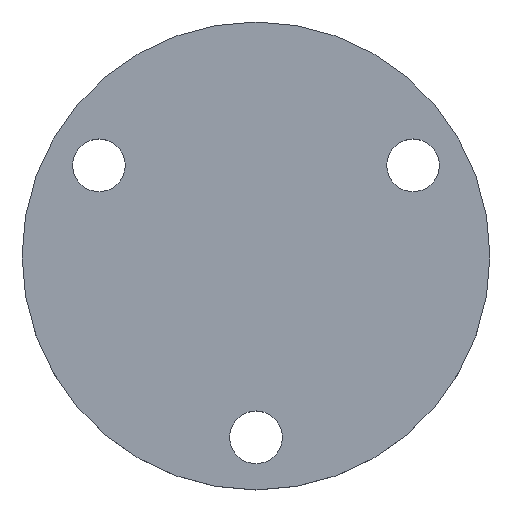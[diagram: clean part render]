
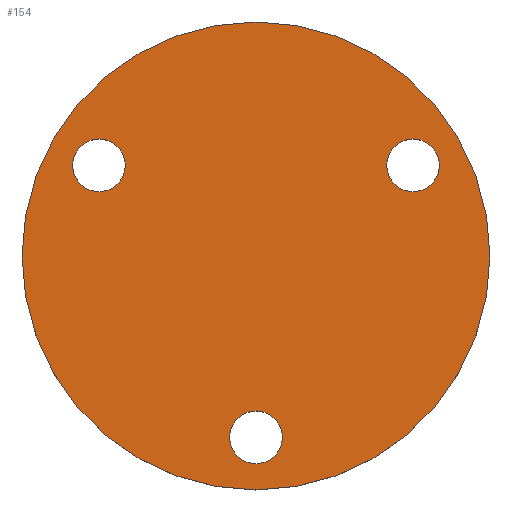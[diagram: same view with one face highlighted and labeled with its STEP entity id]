
A CAD part, top view. The second image highlights one B-rep face of the part: STEP entity #154.
In plain terms, the highlighted planar face has unit normal (0, 0, 1).
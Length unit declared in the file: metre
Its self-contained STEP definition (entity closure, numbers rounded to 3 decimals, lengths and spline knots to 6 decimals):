
#12=PLANE('',#187);
#25=ORIENTED_EDGE('',*,*,#49,.F.);
#26=ORIENTED_EDGE('',*,*,#47,.F.);
#27=ORIENTED_EDGE('',*,*,#45,.F.);
#28=ORIENTED_EDGE('',*,*,#51,.T.);
#45=EDGE_CURVE('',#59,#59,#73,.T.);
#47=EDGE_CURVE('',#61,#61,#75,.T.);
#49=EDGE_CURVE('',#63,#63,#77,.T.);
#51=EDGE_CURVE('',#65,#65,#79,.T.);
#59=VERTEX_POINT('',#258);
#61=VERTEX_POINT('',#263);
#63=VERTEX_POINT('',#268);
#65=VERTEX_POINT('',#273);
#73=CIRCLE('',#176,0.00225);
#75=CIRCLE('',#179,0.00225);
#77=CIRCLE('',#182,0.00225);
#79=CIRCLE('',#185,0.02);
#95=EDGE_LOOP('',(#25));
#96=EDGE_LOOP('',(#26));
#97=EDGE_LOOP('',(#27));
#98=EDGE_LOOP('',(#28));
#123=FACE_BOUND('',#95,.T.);
#124=FACE_BOUND('',#96,.T.);
#125=FACE_BOUND('',#97,.T.);
#126=FACE_BOUND('',#98,.T.);
#154=ADVANCED_FACE('',(#123,#124,#125,#126),#12,.T.);
#176=AXIS2_PLACEMENT_3D('',#257,#205,#206);
#179=AXIS2_PLACEMENT_3D('',#262,#211,#212);
#182=AXIS2_PLACEMENT_3D('',#267,#217,#218);
#185=AXIS2_PLACEMENT_3D('',#272,#223,#224);
#187=AXIS2_PLACEMENT_3D('',#276,#227,#228);
#205=DIRECTION('',(0.,0.,1.));
#206=DIRECTION('',(1.,0.,0.));
#211=DIRECTION('',(0.,0.,1.));
#212=DIRECTION('',(1.,0.,0.));
#217=DIRECTION('',(0.,0.,1.));
#218=DIRECTION('',(1.,0.,0.));
#223=DIRECTION('',(0.,0.,1.));
#224=DIRECTION('',(1.,0.,0.));
#227=DIRECTION('',(0.,0.,1.));
#228=DIRECTION('',(1.,0.,0.));
#257=CARTESIAN_POINT('',(0.,-0.0155,0.003338));
#258=CARTESIAN_POINT('',(0.00225,-0.0155,0.003338));
#262=CARTESIAN_POINT('',(0.013423,0.00775,0.003338));
#263=CARTESIAN_POINT('',(0.015673,0.00775,0.003338));
#267=CARTESIAN_POINT('',(-0.013423,0.00775,0.003338));
#268=CARTESIAN_POINT('',(-0.011173,0.00775,0.003338));
#272=CARTESIAN_POINT('',(0.,0.,0.003338));
#273=CARTESIAN_POINT('',(0.02,0.,0.003338));
#276=CARTESIAN_POINT('',(0.,0.,0.003338));
